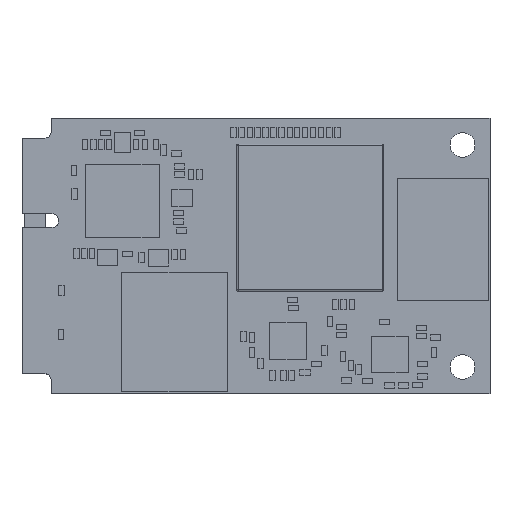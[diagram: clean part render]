
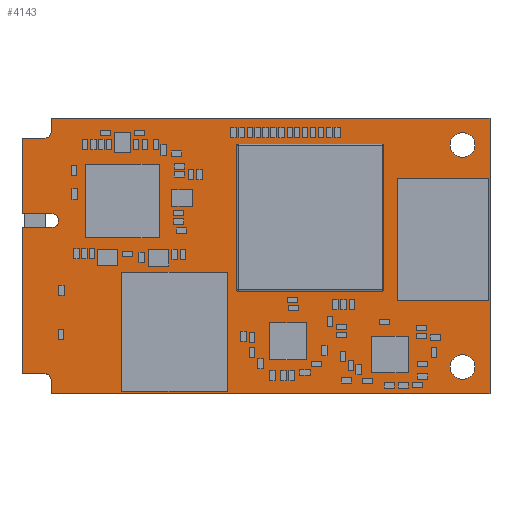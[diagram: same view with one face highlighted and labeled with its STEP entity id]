
A CAD part, top view. The second image highlights one B-rep face of the part: STEP entity #4143.
In plain terms, the highlighted planar face has unit normal (0, 0, 1).
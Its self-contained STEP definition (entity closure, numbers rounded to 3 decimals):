
#4143=ADVANCED_FACE('',(#6568,#6569,#6570),#6571,.T.);
#6568=FACE_BOUND('',#8384,.T.);
#6569=FACE_BOUND('',#8385,.T.);
#6570=FACE_OUTER_BOUND('',#8386,.T.);
#6571=PLANE('',#8387);
#8384=EDGE_LOOP('',(#9400));
#8385=EDGE_LOOP('',(#9401));
#8386=EDGE_LOOP('',(#9402,#9403,#9404,#9405,#9406,#9407,#9408,#9409,#9410,#9411,#9412,#9413,#9414,#9415,#9416,#9417));
#8387=AXIS2_PLACEMENT_3D('',#9418,#9419,#9420);
#9400=ORIENTED_EDGE('',*,*,#11899,.T.);
#9401=ORIENTED_EDGE('',*,*,#11902,.T.);
#9402=ORIENTED_EDGE('',*,*,#11905,.T.);
#9403=ORIENTED_EDGE('',*,*,#11906,.T.);
#9404=ORIENTED_EDGE('',*,*,#11907,.T.);
#9405=ORIENTED_EDGE('',*,*,#11908,.T.);
#9406=ORIENTED_EDGE('',*,*,#11909,.T.);
#9407=ORIENTED_EDGE('',*,*,#11910,.T.);
#9408=ORIENTED_EDGE('',*,*,#11911,.T.);
#9409=ORIENTED_EDGE('',*,*,#11912,.T.);
#9410=ORIENTED_EDGE('',*,*,#11913,.T.);
#9411=ORIENTED_EDGE('',*,*,#11914,.T.);
#9412=ORIENTED_EDGE('',*,*,#11915,.T.);
#9413=ORIENTED_EDGE('',*,*,#11916,.T.);
#9414=ORIENTED_EDGE('',*,*,#11917,.T.);
#9415=ORIENTED_EDGE('',*,*,#11918,.T.);
#9416=ORIENTED_EDGE('',*,*,#11919,.T.);
#9417=ORIENTED_EDGE('',*,*,#11920,.T.);
#9418=CARTESIAN_POINT('',(-26.339,15.168,0.94));
#9419=DIRECTION('',(0.0,0.0,1.0));
#9420=DIRECTION('',(1.0,0.0,0.0));
#11899=EDGE_CURVE('',#12845,#12845,#12846,.T.);
#11902=EDGE_CURVE('',#12850,#12850,#12851,.T.);
#11905=EDGE_CURVE('',#12855,#12856,#12857,.T.);
#11906=EDGE_CURVE('',#12856,#12858,#12859,.T.);
#11907=EDGE_CURVE('',#12858,#12860,#12861,.T.);
#11908=EDGE_CURVE('',#12860,#12862,#12863,.T.);
#11909=EDGE_CURVE('',#12862,#12864,#12865,.T.);
#11910=EDGE_CURVE('',#12864,#12866,#12867,.T.);
#11911=EDGE_CURVE('',#12866,#12868,#12869,.T.);
#11912=EDGE_CURVE('',#12868,#12870,#12871,.T.);
#11913=EDGE_CURVE('',#12870,#12872,#12873,.T.);
#11914=EDGE_CURVE('',#12872,#12874,#12875,.T.);
#11915=EDGE_CURVE('',#12874,#12876,#12877,.T.);
#11916=EDGE_CURVE('',#12876,#12878,#12879,.T.);
#11917=EDGE_CURVE('',#12878,#12880,#12881,.T.);
#11918=EDGE_CURVE('',#12880,#12882,#12883,.T.);
#11919=EDGE_CURVE('',#12882,#12884,#12885,.T.);
#11920=EDGE_CURVE('',#12884,#12855,#12886,.T.);
#12845=VERTEX_POINT('',#14187);
#12846=CIRCLE('',#14188,1.35);
#12850=VERTEX_POINT('',#14192);
#12851=CIRCLE('',#14193,1.35);
#12855=VERTEX_POINT('',#14197);
#12856=VERTEX_POINT('',#14198);
#12857=LINE('',#14199,#14200);
#12858=VERTEX_POINT('',#14201);
#12859=LINE('',#14202,#14203);
#12860=VERTEX_POINT('',#14204);
#12861=CIRCLE('',#14205,0.7);
#12862=VERTEX_POINT('',#14206);
#12863=LINE('',#14207,#14208);
#12864=VERTEX_POINT('',#14209);
#12865=LINE('',#14210,#14211);
#12866=VERTEX_POINT('',#14212);
#12867=LINE('',#14213,#14214);
#12868=VERTEX_POINT('',#14215);
#12869=CIRCLE('',#14216,0.734);
#12870=VERTEX_POINT('',#14217);
#12871=LINE('',#14218,#14219);
#12872=VERTEX_POINT('',#14220);
#12873=CIRCLE('',#14221,0.734);
#12874=VERTEX_POINT('',#14222);
#12875=LINE('',#14223,#14224);
#12876=VERTEX_POINT('',#14225);
#12877=LINE('',#14226,#14227);
#12878=VERTEX_POINT('',#14228);
#12879=LINE('',#14229,#14230);
#12880=VERTEX_POINT('',#14231);
#12881=CIRCLE('',#14232,0.7);
#12882=VERTEX_POINT('',#14233);
#12883=LINE('',#14234,#14235);
#12884=VERTEX_POINT('',#14236);
#12885=LINE('',#14237,#14238);
#12886=LINE('',#14239,#14240);
#14187=CARTESIAN_POINT('',(-2.99,4.25,0.94));
#14188=AXIS2_PLACEMENT_3D('',#16096,#16097,#16098);
#14192=CARTESIAN_POINT('',(-2.99,28.45,0.94));
#14193=AXIS2_PLACEMENT_3D('',#16102,#16103,#16104);
#14197=CARTESIAN_POINT('',(0.0,30.0,0.94));
#14198=CARTESIAN_POINT('',(-47.8,30.,0.94));
#14199=CARTESIAN_POINT('',(-23.9,30.,0.94));
#14200=VECTOR('',#16108,1.0);
#14201=CARTESIAN_POINT('',(-47.8,28.55,0.94));
#14202=CARTESIAN_POINT('',(-47.8,29.275,0.94));
#14203=VECTOR('',#16109,1.0);
#14204=CARTESIAN_POINT('',(-48.5,27.85,0.94));
#14205=AXIS2_PLACEMENT_3D('',#16110,#16111,#16112);
#14206=CARTESIAN_POINT('',(-51.0,27.85,0.94));
#14207=CARTESIAN_POINT('',(-49.75,27.85,0.94));
#14208=VECTOR('',#16113,1.0);
#14209=CARTESIAN_POINT('',(-51.0,19.6,0.94));
#14210=CARTESIAN_POINT('',(-51.0,23.725,0.94));
#14211=VECTOR('',#16114,1.0);
#14212=CARTESIAN_POINT('',(-47.734,19.6,0.94));
#14213=CARTESIAN_POINT('',(-49.367,19.6,0.94));
#14214=VECTOR('',#16115,1.0);
#14215=CARTESIAN_POINT('',(-47.0,18.866,0.94));
#14216=AXIS2_PLACEMENT_3D('',#16116,#16117,#16118);
#14217=CARTESIAN_POINT('',(-47.0,18.834,0.94));
#14218=CARTESIAN_POINT('',(-47.0,18.85,0.94));
#14219=VECTOR('',#16119,1.0);
#14220=CARTESIAN_POINT('',(-47.734,18.1,0.94));
#14221=AXIS2_PLACEMENT_3D('',#16120,#16121,#16122);
#14222=CARTESIAN_POINT('',(-51.0,18.1,0.94));
#14223=CARTESIAN_POINT('',(-49.367,18.1,0.94));
#14224=VECTOR('',#16123,1.0);
#14225=CARTESIAN_POINT('',(-51.0,2.15,0.94));
#14226=CARTESIAN_POINT('',(-51.0,10.125,0.94));
#14227=VECTOR('',#16124,1.0);
#14228=CARTESIAN_POINT('',(-48.5,2.15,0.94));
#14229=CARTESIAN_POINT('',(-49.75,2.15,0.94));
#14230=VECTOR('',#16125,1.0);
#14231=CARTESIAN_POINT('',(-47.8,1.45,0.94));
#14232=AXIS2_PLACEMENT_3D('',#16126,#16127,#16128);
#14233=CARTESIAN_POINT('',(-47.8,-0.002,0.94));
#14234=CARTESIAN_POINT('',(-47.8,0.724,0.94));
#14235=VECTOR('',#16129,1.0);
#14236=CARTESIAN_POINT('',(0.0,0.0,0.94));
#14237=CARTESIAN_POINT('',(-23.9,-0.001,0.94));
#14238=VECTOR('',#16130,1.0);
#14239=CARTESIAN_POINT('',(0.0,15.0,0.94));
#14240=VECTOR('',#16131,1.0);
#16096=CARTESIAN_POINT('',(-2.99,2.9,0.94));
#16097=DIRECTION('',(0.0,0.0,-1.0));
#16098=DIRECTION('',(0.0,1.0,0.0));
#16102=CARTESIAN_POINT('',(-2.99,27.1,0.94));
#16103=DIRECTION('',(0.0,0.0,-1.0));
#16104=DIRECTION('',(0.0,1.0,0.0));
#16108=DIRECTION('',(-1.0,0.,0.0));
#16109=DIRECTION('',(0.0,-1.0,0.0));
#16110=CARTESIAN_POINT('',(-48.5,28.55,0.94));
#16111=DIRECTION('',(0.0,0.0,-1.0));
#16112=DIRECTION('',(1.0,0.0,0.0));
#16113=DIRECTION('',(-1.0,0.,0.0));
#16114=DIRECTION('',(0.0,-1.0,0.0));
#16115=DIRECTION('',(1.0,0.0,0.0));
#16116=CARTESIAN_POINT('',(-47.734,18.866,0.94));
#16117=DIRECTION('',(0.0,0.0,-1.0));
#16118=DIRECTION('',(0.0,1.0,0.0));
#16119=DIRECTION('',(0.0,-1.0,0.0));
#16120=CARTESIAN_POINT('',(-47.734,18.834,0.94));
#16121=DIRECTION('',(0.0,0.0,-1.0));
#16122=DIRECTION('',(1.0,0.0,0.0));
#16123=DIRECTION('',(-1.0,0.,0.0));
#16124=DIRECTION('',(0.0,-1.0,0.0));
#16125=DIRECTION('',(1.0,0.,0.0));
#16126=CARTESIAN_POINT('',(-48.5,1.45,0.94));
#16127=DIRECTION('',(0.0,0.0,-1.0));
#16128=DIRECTION('',(0.0,1.0,0.0));
#16129=DIRECTION('',(0.,-1.0,0.0));
#16130=DIRECTION('',(1.,0.,0.0));
#16131=DIRECTION('',(0.0,1.0,0.0));
